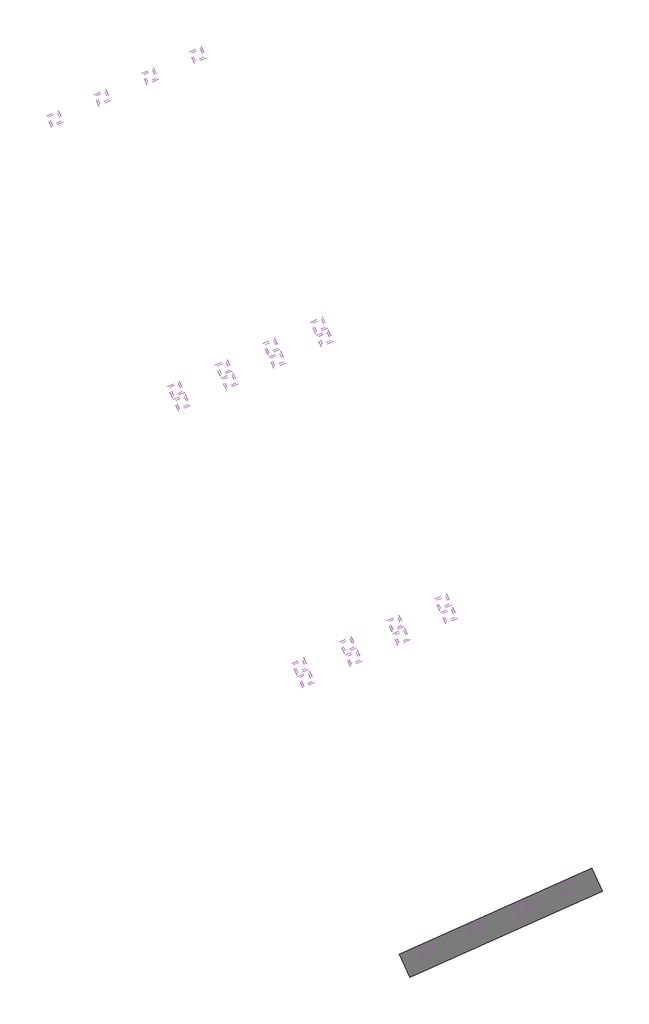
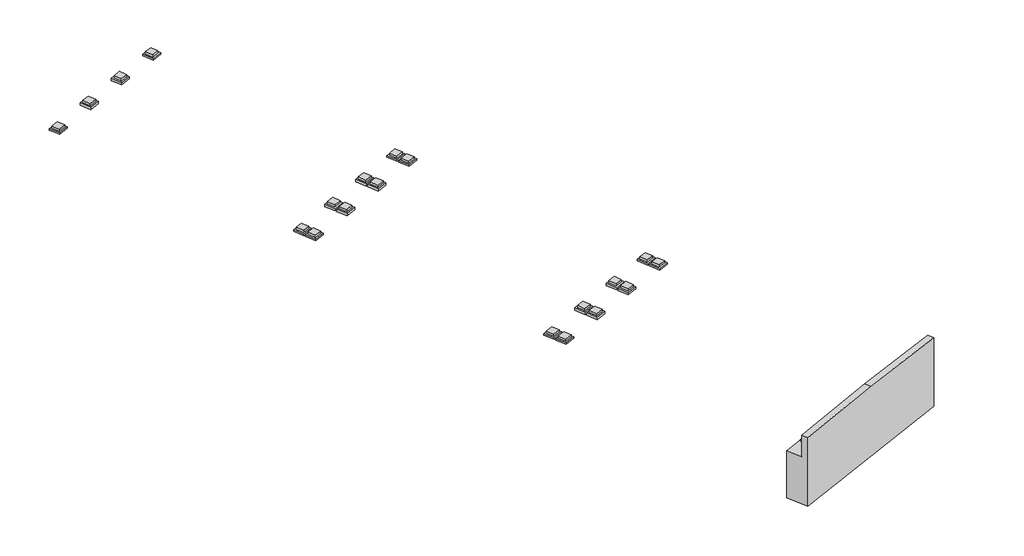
# One storey: 49 proxies.
"""IFC4 building model written with IfcOpenShell, lengths in millimetres."""

from ifc_helpers import new_model, si_unit, origin, place, context, project, spatial, transform, mapped, element, save
from components import generic_models_c604970b, m_bearing_pedestal_square_m_bearing_pedestal_square_b3e131c9, m_bearing_pedestal_square_m_bearing_pedestal_square_c1e3d4df, m_bearing_pedestal_square_m_bearing_pedestal_square_53fed63e, m_bearing_pedestal_square_m_bearing_pedestal_square_bb1ba2fc, m_bearing_pedestal_square_m_bearing_pedestal_square_95cf3319, m_bearing_rectangle_m_bearing_rectangle_8e37d638

model = new_model("IFC4")

# Units and contexts
model_context = context("Model", 3, world=origin())
ifc_project = project(units=[si_unit("LENGTHUNIT", "METRE", prefix="MILLI")], contexts=[model_context])

# Site, building, storey
site = spatial("IfcSite", under=ifc_project)
building = spatial("IfcBuilding", under=site)
storey = spatial("IfcBuildingStorey", under=building, Name="レベル 20", Elevation=-4770.8224551)

# Proxies
placement = place(None, origin())
generic_models_shape = generic_models_c604970b(model_context)
element("IfcBuildingElementProxy", 1, Name="M_Abutment_basic_no_slope_no_foundation : M_Abutment_basic_no_slope_no_foundation", ObjectType="M_Abutment_basic_no_slope_no_foundation : M_Abutment_basic_no_slope_no_foundation", at=placement, inside=storey, context=model_context, shape_type="MappedRepresentation", body=[
    mapped(generic_models_shape, transform((10313.007, -22993.0835, -1653.218796), x_axis=(-0.912423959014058, -0.40924628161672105, 0.0), y_axis=(0.40924628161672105, -0.912423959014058, 0.0), z_axis=(0.0, 0.0, 1.0))),
])
m_bearing_pedestal_square_m_bearing_pedestal_square_shape = m_bearing_pedestal_square_m_bearing_pedestal_square_b3e131c9(model_context)
element("IfcBuildingElementProxy", 2, Name="M_Bearing_pedestal_square : M_Bearing_pedestal_square", ObjectType="M_Bearing_pedestal_square : M_Bearing_pedestal_square", at=placement, inside=storey, context=model_context, shape_type="MappedRepresentation", body=[
    mapped(m_bearing_pedestal_square_m_bearing_pedestal_square_shape, transform((-6353.0868, 24769.2124, -1560.680896), x_axis=(0.9124239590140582, 0.4092462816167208, 0.0), y_axis=(-0.4092462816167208, 0.9124239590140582, 0.0), z_axis=(0.0, 0.0, 1.0))),
])
element("IfcBuildingElementProxy", 3, Name="M_Bearing_pedestal_square : M_Bearing_pedestal_square", ObjectType="M_Bearing_pedestal_square : M_Bearing_pedestal_square", at=placement, inside=storey, context=model_context, shape_type="MappedRepresentation", body=[
    mapped(m_bearing_pedestal_square_m_bearing_pedestal_square_shape, transform((-14272.9272, 21216.9546, -1560.680896), x_axis=(0.9124239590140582, 0.4092462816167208, 0.0), y_axis=(-0.4092462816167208, 0.9124239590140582, 0.0), z_axis=(0.0, 0.0, 1.0))),
])
element("IfcBuildingElementProxy", 4, Name="M_Bearing_pedestal_square : M_Bearing_pedestal_square", ObjectType="M_Bearing_pedestal_square : M_Bearing_pedestal_square", at=placement, inside=storey, context=model_context, shape_type="MappedRepresentation", body=[
    mapped(m_bearing_pedestal_square_m_bearing_pedestal_square_shape, transform((358.5527, 9805.4596, -1560.680896), x_axis=(0.9124239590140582, 0.4092462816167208, 0.0), y_axis=(-0.4092462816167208, 0.9124239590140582, 0.0), z_axis=(0.0, 0.0, 1.0))),
])
element("IfcBuildingElementProxy", 5, Name="M_Bearing_pedestal_square : M_Bearing_pedestal_square", ObjectType="M_Bearing_pedestal_square : M_Bearing_pedestal_square", at=placement, inside=storey, context=model_context, shape_type="MappedRepresentation", body=[
    mapped(m_bearing_pedestal_square_m_bearing_pedestal_square_shape, transform((-7561.2877, 6253.2018, -1560.680896), x_axis=(0.9124239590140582, 0.4092462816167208, 0.0), y_axis=(-0.4092462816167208, 0.9124239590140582, 0.0), z_axis=(0.0, 0.0, 1.0))),
])
element("IfcBuildingElementProxy", 6, Name="M_Bearing_pedestal_square : M_Bearing_pedestal_square", ObjectType="M_Bearing_pedestal_square : M_Bearing_pedestal_square", at=placement, inside=storey, context=model_context, shape_type="MappedRepresentation", body=[
    mapped(m_bearing_pedestal_square_m_bearing_pedestal_square_shape, transform((685.9497, 9075.5205, -1560.680896), x_axis=(0.9124239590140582, 0.4092462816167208, 0.0), y_axis=(-0.4092462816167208, 0.9124239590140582, 0.0), z_axis=(0.0, 0.0, 1.0))),
])
element("IfcBuildingElementProxy", 7, Name="M_Bearing_pedestal_square : M_Bearing_pedestal_square", ObjectType="M_Bearing_pedestal_square : M_Bearing_pedestal_square", at=placement, inside=storey, context=model_context, shape_type="MappedRepresentation", body=[
    mapped(m_bearing_pedestal_square_m_bearing_pedestal_square_shape, transform((-7233.8907, 5523.2627, -1560.680896), x_axis=(0.9124239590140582, 0.4092462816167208, 0.0), y_axis=(-0.4092462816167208, 0.9124239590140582, 0.0), z_axis=(0.0, 0.0, 1.0))),
])
element("IfcBuildingElementProxy", 8, Name="M_Bearing_pedestal_square : M_Bearing_pedestal_square", ObjectType="M_Bearing_pedestal_square : M_Bearing_pedestal_square", at=placement, inside=storey, context=model_context, shape_type="MappedRepresentation", body=[
    mapped(m_bearing_pedestal_square_m_bearing_pedestal_square_shape, transform((7561.2877, -6253.2018, -1564.622796), x_axis=(0.9124239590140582, 0.4092462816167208, 0.0), y_axis=(-0.4092462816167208, 0.9124239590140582, 0.0), z_axis=(0.0, 0.0, 1.0))),
])
element("IfcBuildingElementProxy", 9, Name="M_Bearing_pedestal_square : M_Bearing_pedestal_square", ObjectType="M_Bearing_pedestal_square : M_Bearing_pedestal_square", at=placement, inside=storey, context=model_context, shape_type="MappedRepresentation", body=[
    mapped(m_bearing_pedestal_square_m_bearing_pedestal_square_shape, transform((-358.5527, -9805.4596, -1564.622796), x_axis=(0.9124239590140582, 0.4092462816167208, 0.0), y_axis=(-0.4092462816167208, 0.9124239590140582, 0.0), z_axis=(0.0, 0.0, 1.0))),
])
element("IfcBuildingElementProxy", 10, Name="M_Bearing_pedestal_square : M_Bearing_pedestal_square", ObjectType="M_Bearing_pedestal_square : M_Bearing_pedestal_square", at=placement, inside=storey, context=model_context, shape_type="MappedRepresentation", body=[
    mapped(m_bearing_pedestal_square_m_bearing_pedestal_square_shape, transform((14272.9272, -21216.9546, -1553.218796), x_axis=(0.9124239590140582, 0.4092462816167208, 0.0), y_axis=(-0.4092462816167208, 0.9124239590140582, 0.0), z_axis=(0.0, 0.0, 1.0))),
])
element("IfcBuildingElementProxy", 11, Name="M_Bearing_pedestal_square : M_Bearing_pedestal_square", ObjectType="M_Bearing_pedestal_square : M_Bearing_pedestal_square", at=placement, inside=storey, context=model_context, shape_type="MappedRepresentation", body=[
    mapped(m_bearing_pedestal_square_m_bearing_pedestal_square_shape, transform((6353.0868, -24769.2124, -1553.218796), x_axis=(0.9124239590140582, 0.4092462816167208, 0.0), y_axis=(-0.4092462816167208, 0.9124239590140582, 0.0), z_axis=(0.0, 0.0, 1.0))),
])
m_bearing_pedestal_square_m_bearing_pedestal_square_2_shape = m_bearing_pedestal_square_m_bearing_pedestal_square_c1e3d4df(model_context)
element("IfcBuildingElementProxy", 12, Name="M_Bearing_pedestal_square : M_Bearing_pedestal_square", ObjectType="M_Bearing_pedestal_square : M_Bearing_pedestal_square", at=placement, inside=storey, context=model_context, shape_type="MappedRepresentation", body=[
    mapped(m_bearing_pedestal_square_m_bearing_pedestal_square_2_shape, transform((-8993.0337, 23585.1264, -1502.814168), x_axis=(0.9124239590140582, 0.4092462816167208, 0.0), y_axis=(-0.4092462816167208, 0.9124239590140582, 0.0), z_axis=(0.0, 0.0, 1.0))),
])
element("IfcBuildingElementProxy", 13, Name="M_Bearing_pedestal_square : M_Bearing_pedestal_square", ObjectType="M_Bearing_pedestal_square : M_Bearing_pedestal_square", at=placement, inside=storey, context=model_context, shape_type="MappedRepresentation", body=[
    mapped(m_bearing_pedestal_square_m_bearing_pedestal_square_2_shape, transform((-11632.9803, 22401.0406, -1502.814168), x_axis=(0.9124239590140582, 0.4092462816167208, 0.0), y_axis=(-0.4092462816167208, 0.9124239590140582, 0.0), z_axis=(0.0, 0.0, 1.0))),
])
element("IfcBuildingElementProxy", 14, Name="M_Bearing_pedestal_square : M_Bearing_pedestal_square", ObjectType="M_Bearing_pedestal_square : M_Bearing_pedestal_square", at=placement, inside=storey, context=model_context, shape_type="MappedRepresentation", body=[
    mapped(m_bearing_pedestal_square_m_bearing_pedestal_square_2_shape, transform((-2281.3942, 8621.3736, -1502.814168), x_axis=(0.9124239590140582, 0.4092462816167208, 0.0), y_axis=(-0.4092462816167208, 0.9124239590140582, 0.0), z_axis=(0.0, 0.0, 1.0))),
])
element("IfcBuildingElementProxy", 15, Name="M_Bearing_pedestal_square : M_Bearing_pedestal_square", ObjectType="M_Bearing_pedestal_square : M_Bearing_pedestal_square", at=placement, inside=storey, context=model_context, shape_type="MappedRepresentation", body=[
    mapped(m_bearing_pedestal_square_m_bearing_pedestal_square_2_shape, transform((-4921.3408, 7437.2878, -1502.814168), x_axis=(0.9124239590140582, 0.4092462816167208, 0.0), y_axis=(-0.4092462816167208, 0.9124239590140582, 0.0), z_axis=(0.0, 0.0, 1.0))),
])
element("IfcBuildingElementProxy", 16, Name="M_Bearing_pedestal_square : M_Bearing_pedestal_square", ObjectType="M_Bearing_pedestal_square : M_Bearing_pedestal_square", at=placement, inside=storey, context=model_context, shape_type="MappedRepresentation", body=[
    mapped(m_bearing_pedestal_square_m_bearing_pedestal_square_2_shape, transform((-1953.9972, 7891.4345, -1502.814168), x_axis=(0.9124239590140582, 0.4092462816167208, 0.0), y_axis=(-0.4092462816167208, 0.9124239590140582, 0.0), z_axis=(0.0, 0.0, 1.0))),
])
element("IfcBuildingElementProxy", 17, Name="M_Bearing_pedestal_square : M_Bearing_pedestal_square", ObjectType="M_Bearing_pedestal_square : M_Bearing_pedestal_square", at=placement, inside=storey, context=model_context, shape_type="MappedRepresentation", body=[
    mapped(m_bearing_pedestal_square_m_bearing_pedestal_square_2_shape, transform((-4593.9438, 6707.3487, -1502.814168), x_axis=(0.9124239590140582, 0.4092462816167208, 0.0), y_axis=(-0.4092462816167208, 0.9124239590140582, 0.0), z_axis=(0.0, 0.0, 1.0))),
])
element("IfcBuildingElementProxy", 18, Name="M_Bearing_pedestal_square : M_Bearing_pedestal_square", ObjectType="M_Bearing_pedestal_square : M_Bearing_pedestal_square", at=placement, inside=storey, context=model_context, shape_type="MappedRepresentation", body=[
    mapped(m_bearing_pedestal_square_m_bearing_pedestal_square_2_shape, transform((4921.3408, -7437.2878, -1506.756068), x_axis=(0.9124239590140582, 0.4092462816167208, 0.0), y_axis=(-0.4092462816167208, 0.9124239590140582, 0.0), z_axis=(0.0, 0.0, 1.0))),
])
element("IfcBuildingElementProxy", 19, Name="M_Bearing_pedestal_square : M_Bearing_pedestal_square", ObjectType="M_Bearing_pedestal_square : M_Bearing_pedestal_square", at=placement, inside=storey, context=model_context, shape_type="MappedRepresentation", body=[
    mapped(m_bearing_pedestal_square_m_bearing_pedestal_square_2_shape, transform((11632.9803, -22401.0406, -1495.352068), x_axis=(0.9124239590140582, 0.4092462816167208, 0.0), y_axis=(-0.4092462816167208, 0.9124239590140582, 0.0), z_axis=(0.0, 0.0, 1.0))),
])
m_bearing_pedestal_square_m_bearing_pedestal_square_3_shape = m_bearing_pedestal_square_m_bearing_pedestal_square_53fed63e(model_context)
element("IfcBuildingElementProxy", 20, Name="M_Bearing_pedestal_square : M_Bearing_pedestal_square", ObjectType="M_Bearing_pedestal_square : M_Bearing_pedestal_square", at=placement, inside=storey, context=model_context, shape_type="MappedRepresentation", body=[
    mapped(m_bearing_pedestal_square_m_bearing_pedestal_square_3_shape, transform((7233.8907, -5523.2627, -1560.680896), x_axis=(0.9124239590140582, 0.4092462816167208, 0.0), y_axis=(-0.4092462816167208, 0.9124239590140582, 0.0), z_axis=(0.0, 0.0, 1.0))),
])
element("IfcBuildingElementProxy", 21, Name="M_Bearing_pedestal_square : M_Bearing_pedestal_square", ObjectType="M_Bearing_pedestal_square : M_Bearing_pedestal_square", at=placement, inside=storey, context=model_context, shape_type="MappedRepresentation", body=[
    mapped(m_bearing_pedestal_square_m_bearing_pedestal_square_3_shape, transform((-685.9497, -9075.5205, -1560.680896), x_axis=(0.9124239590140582, 0.4092462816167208, 0.0), y_axis=(-0.4092462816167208, 0.9124239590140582, 0.0), z_axis=(0.0, 0.0, 1.0))),
])
m_bearing_pedestal_square_m_bearing_pedestal_square_4_shape = m_bearing_pedestal_square_m_bearing_pedestal_square_bb1ba2fc(model_context)
element("IfcBuildingElementProxy", 22, Name="M_Bearing_pedestal_square : M_Bearing_pedestal_square", ObjectType="M_Bearing_pedestal_square : M_Bearing_pedestal_square", at=placement, inside=storey, context=model_context, shape_type="MappedRepresentation", body=[
    mapped(m_bearing_pedestal_square_m_bearing_pedestal_square_4_shape, transform((4593.9438, -6707.3487, -1502.814168), x_axis=(0.9124239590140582, 0.4092462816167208, 0.0), y_axis=(-0.4092462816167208, 0.9124239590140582, 0.0), z_axis=(0.0, 0.0, 1.0))),
])
element("IfcBuildingElementProxy", 23, Name="M_Bearing_pedestal_square : M_Bearing_pedestal_square", ObjectType="M_Bearing_pedestal_square : M_Bearing_pedestal_square", at=placement, inside=storey, context=model_context, shape_type="MappedRepresentation", body=[
    mapped(m_bearing_pedestal_square_m_bearing_pedestal_square_4_shape, transform((1953.9972, -7891.4345, -1502.814168), x_axis=(0.9124239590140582, 0.4092462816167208, 0.0), y_axis=(-0.4092462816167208, 0.9124239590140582, 0.0), z_axis=(0.0, 0.0, 1.0))),
])
m_bearing_pedestal_square_m_bearing_pedestal_square_5_shape = m_bearing_pedestal_square_m_bearing_pedestal_square_95cf3319(model_context)
element("IfcBuildingElementProxy", 24, Name="M_Bearing_pedestal_square : M_Bearing_pedestal_square", ObjectType="M_Bearing_pedestal_square : M_Bearing_pedestal_square", at=placement, inside=storey, context=model_context, shape_type="MappedRepresentation", body=[
    mapped(m_bearing_pedestal_square_m_bearing_pedestal_square_5_shape, transform((2281.3942, -8621.3736, -1506.755968), x_axis=(0.9124239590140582, 0.4092462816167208, 0.0), y_axis=(-0.4092462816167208, 0.9124239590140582, 0.0), z_axis=(0.0, 0.0, 1.0))),
])
element("IfcBuildingElementProxy", 25, Name="M_Bearing_pedestal_square : M_Bearing_pedestal_square", ObjectType="M_Bearing_pedestal_square : M_Bearing_pedestal_square", at=placement, inside=storey, context=model_context, shape_type="MappedRepresentation", body=[
    mapped(m_bearing_pedestal_square_m_bearing_pedestal_square_5_shape, transform((8993.0337, -23585.1264, -1495.351968), x_axis=(0.9124239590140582, 0.4092462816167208, 0.0), y_axis=(-0.4092462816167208, 0.9124239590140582, 0.0), z_axis=(0.0, 0.0, 1.0))),
])
m_bearing_rectangle_m_bearing_rectangle_shape = m_bearing_rectangle_m_bearing_rectangle_8e37d638(model_context)
element("IfcBuildingElementProxy", 26, Name="M_Bearing_rectangle : M_Bearing_rectangle", ObjectType="M_Bearing_rectangle : M_Bearing_rectangle", at=placement, inside=storey, context=model_context, shape_type="MappedRepresentation", body=[
    mapped(m_bearing_rectangle_m_bearing_rectangle_shape, transform((-6353.0868, 24769.2124, -1410.680896), x_axis=(0.9124239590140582, 0.4092462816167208, 0.0), y_axis=(-0.4092462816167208, 0.9124239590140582, 0.0), z_axis=(0.0, 0.0, 1.0))),
])
element("IfcBuildingElementProxy", 27, Name="M_Bearing_rectangle : M_Bearing_rectangle", ObjectType="M_Bearing_rectangle : M_Bearing_rectangle", at=placement, inside=storey, context=model_context, shape_type="MappedRepresentation", body=[
    mapped(m_bearing_rectangle_m_bearing_rectangle_shape, transform((-8993.0337, 23585.1264, -1352.814168), x_axis=(0.9124239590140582, 0.4092462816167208, 0.0), y_axis=(-0.4092462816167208, 0.9124239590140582, 0.0), z_axis=(0.0, 0.0, 1.0))),
])
element("IfcBuildingElementProxy", 28, Name="M_Bearing_rectangle : M_Bearing_rectangle", ObjectType="M_Bearing_rectangle : M_Bearing_rectangle", at=placement, inside=storey, context=model_context, shape_type="MappedRepresentation", body=[
    mapped(m_bearing_rectangle_m_bearing_rectangle_shape, transform((-11632.9803, 22401.0406, -1352.814168), x_axis=(0.9124239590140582, 0.4092462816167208, 0.0), y_axis=(-0.4092462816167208, 0.9124239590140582, 0.0), z_axis=(0.0, 0.0, 1.0))),
])
element("IfcBuildingElementProxy", 29, Name="M_Bearing_rectangle : M_Bearing_rectangle", ObjectType="M_Bearing_rectangle : M_Bearing_rectangle", at=placement, inside=storey, context=model_context, shape_type="MappedRepresentation", body=[
    mapped(m_bearing_rectangle_m_bearing_rectangle_shape, transform((-14272.9272, 21216.9546, -1410.680896), x_axis=(0.9124239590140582, 0.4092462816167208, 0.0), y_axis=(-0.4092462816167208, 0.9124239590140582, 0.0), z_axis=(0.0, 0.0, 1.0))),
])
element("IfcBuildingElementProxy", 30, Name="M_Bearing_rectangle : M_Bearing_rectangle", ObjectType="M_Bearing_rectangle : M_Bearing_rectangle", at=placement, inside=storey, context=model_context, shape_type="MappedRepresentation", body=[
    mapped(m_bearing_rectangle_m_bearing_rectangle_shape, transform((358.5527, 9805.4596, -1410.680896), x_axis=(0.9124239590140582, 0.4092462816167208, 0.0), y_axis=(-0.4092462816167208, 0.9124239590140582, 0.0), z_axis=(0.0, 0.0, 1.0))),
])
element("IfcBuildingElementProxy", 31, Name="M_Bearing_rectangle : M_Bearing_rectangle", ObjectType="M_Bearing_rectangle : M_Bearing_rectangle", at=placement, inside=storey, context=model_context, shape_type="MappedRepresentation", body=[
    mapped(m_bearing_rectangle_m_bearing_rectangle_shape, transform((-2281.3942, 8621.3736, -1352.814168), x_axis=(0.9124239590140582, 0.4092462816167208, 0.0), y_axis=(-0.4092462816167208, 0.9124239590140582, 0.0), z_axis=(0.0, 0.0, 1.0))),
])
element("IfcBuildingElementProxy", 32, Name="M_Bearing_rectangle : M_Bearing_rectangle", ObjectType="M_Bearing_rectangle : M_Bearing_rectangle", at=placement, inside=storey, context=model_context, shape_type="MappedRepresentation", body=[
    mapped(m_bearing_rectangle_m_bearing_rectangle_shape, transform((-4921.3408, 7437.2878, -1352.814168), x_axis=(0.9124239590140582, 0.4092462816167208, 0.0), y_axis=(-0.4092462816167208, 0.9124239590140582, 0.0), z_axis=(0.0, 0.0, 1.0))),
])
element("IfcBuildingElementProxy", 33, Name="M_Bearing_rectangle : M_Bearing_rectangle", ObjectType="M_Bearing_rectangle : M_Bearing_rectangle", at=placement, inside=storey, context=model_context, shape_type="MappedRepresentation", body=[
    mapped(m_bearing_rectangle_m_bearing_rectangle_shape, transform((-7561.2877, 6253.2018, -1410.680896), x_axis=(0.9124239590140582, 0.4092462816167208, 0.0), y_axis=(-0.4092462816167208, 0.9124239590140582, 0.0), z_axis=(0.0, 0.0, 1.0))),
])
element("IfcBuildingElementProxy", 34, Name="M_Bearing_rectangle : M_Bearing_rectangle", ObjectType="M_Bearing_rectangle : M_Bearing_rectangle", at=placement, inside=storey, context=model_context, shape_type="MappedRepresentation", body=[
    mapped(m_bearing_rectangle_m_bearing_rectangle_shape, transform((685.9497, 9075.5205, -1410.680896), x_axis=(0.9124239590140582, 0.4092462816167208, 0.0), y_axis=(-0.4092462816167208, 0.9124239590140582, 0.0), z_axis=(0.0, 0.0, 1.0))),
])
element("IfcBuildingElementProxy", 35, Name="M_Bearing_rectangle : M_Bearing_rectangle", ObjectType="M_Bearing_rectangle : M_Bearing_rectangle", at=placement, inside=storey, context=model_context, shape_type="MappedRepresentation", body=[
    mapped(m_bearing_rectangle_m_bearing_rectangle_shape, transform((-1953.9972, 7891.4345, -1352.814168), x_axis=(0.9124239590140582, 0.4092462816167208, 0.0), y_axis=(-0.4092462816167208, 0.9124239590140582, 0.0), z_axis=(0.0, 0.0, 1.0))),
])
element("IfcBuildingElementProxy", 36, Name="M_Bearing_rectangle : M_Bearing_rectangle", ObjectType="M_Bearing_rectangle : M_Bearing_rectangle", at=placement, inside=storey, context=model_context, shape_type="MappedRepresentation", body=[
    mapped(m_bearing_rectangle_m_bearing_rectangle_shape, transform((-4593.9438, 6707.3487, -1352.814168), x_axis=(0.9124239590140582, 0.4092462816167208, 0.0), y_axis=(-0.4092462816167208, 0.9124239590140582, 0.0), z_axis=(0.0, 0.0, 1.0))),
])
element("IfcBuildingElementProxy", 37, Name="M_Bearing_rectangle : M_Bearing_rectangle", ObjectType="M_Bearing_rectangle : M_Bearing_rectangle", at=placement, inside=storey, context=model_context, shape_type="MappedRepresentation", body=[
    mapped(m_bearing_rectangle_m_bearing_rectangle_shape, transform((-7233.8907, 5523.2627, -1410.680896), x_axis=(0.9124239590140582, 0.4092462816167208, 0.0), y_axis=(-0.4092462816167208, 0.9124239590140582, 0.0), z_axis=(0.0, 0.0, 1.0))),
])
element("IfcBuildingElementProxy", 38, Name="M_Bearing_rectangle : M_Bearing_rectangle", ObjectType="M_Bearing_rectangle : M_Bearing_rectangle", at=placement, inside=storey, context=model_context, shape_type="MappedRepresentation", body=[
    mapped(m_bearing_rectangle_m_bearing_rectangle_shape, transform((7233.8907, -5523.2627, -1410.680896), x_axis=(0.9124239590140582, 0.4092462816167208, 0.0), y_axis=(-0.4092462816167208, 0.9124239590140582, 0.0), z_axis=(0.0, 0.0, 1.0))),
])
element("IfcBuildingElementProxy", 39, Name="M_Bearing_rectangle : M_Bearing_rectangle", ObjectType="M_Bearing_rectangle : M_Bearing_rectangle", at=placement, inside=storey, context=model_context, shape_type="MappedRepresentation", body=[
    mapped(m_bearing_rectangle_m_bearing_rectangle_shape, transform((4593.9438, -6707.3487, -1352.814168), x_axis=(0.9124239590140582, 0.4092462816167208, 0.0), y_axis=(-0.4092462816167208, 0.9124239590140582, 0.0), z_axis=(0.0, 0.0, 1.0))),
])
element("IfcBuildingElementProxy", 40, Name="M_Bearing_rectangle : M_Bearing_rectangle", ObjectType="M_Bearing_rectangle : M_Bearing_rectangle", at=placement, inside=storey, context=model_context, shape_type="MappedRepresentation", body=[
    mapped(m_bearing_rectangle_m_bearing_rectangle_shape, transform((1953.9972, -7891.4345, -1352.814168), x_axis=(0.9124239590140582, 0.4092462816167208, 0.0), y_axis=(-0.4092462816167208, 0.9124239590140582, 0.0), z_axis=(0.0, 0.0, 1.0))),
])
element("IfcBuildingElementProxy", 41, Name="M_Bearing_rectangle : M_Bearing_rectangle", ObjectType="M_Bearing_rectangle : M_Bearing_rectangle", at=placement, inside=storey, context=model_context, shape_type="MappedRepresentation", body=[
    mapped(m_bearing_rectangle_m_bearing_rectangle_shape, transform((-685.9497, -9075.5205, -1410.680896), x_axis=(0.9124239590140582, 0.4092462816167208, 0.0), y_axis=(-0.4092462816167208, 0.9124239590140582, 0.0), z_axis=(0.0, 0.0, 1.0))),
])
element("IfcBuildingElementProxy", 42, Name="M_Bearing_rectangle : M_Bearing_rectangle", ObjectType="M_Bearing_rectangle : M_Bearing_rectangle", at=placement, inside=storey, context=model_context, shape_type="MappedRepresentation", body=[
    mapped(m_bearing_rectangle_m_bearing_rectangle_shape, transform((7561.2877, -6253.2018, -1414.622796), x_axis=(0.9124239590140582, 0.4092462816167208, 0.0), y_axis=(-0.4092462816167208, 0.9124239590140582, 0.0), z_axis=(0.0, 0.0, 1.0))),
])
element("IfcBuildingElementProxy", 43, Name="M_Bearing_rectangle : M_Bearing_rectangle", ObjectType="M_Bearing_rectangle : M_Bearing_rectangle", at=placement, inside=storey, context=model_context, shape_type="MappedRepresentation", body=[
    mapped(m_bearing_rectangle_m_bearing_rectangle_shape, transform((4921.3408, -7437.2878, -1356.756068), x_axis=(0.9124239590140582, 0.4092462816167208, 0.0), y_axis=(-0.4092462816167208, 0.9124239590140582, 0.0), z_axis=(0.0, 0.0, 1.0))),
])
element("IfcBuildingElementProxy", 44, Name="M_Bearing_rectangle : M_Bearing_rectangle", ObjectType="M_Bearing_rectangle : M_Bearing_rectangle", at=placement, inside=storey, context=model_context, shape_type="MappedRepresentation", body=[
    mapped(m_bearing_rectangle_m_bearing_rectangle_shape, transform((2281.3942, -8621.3736, -1356.755968), x_axis=(0.9124239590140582, 0.4092462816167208, 0.0), y_axis=(-0.4092462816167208, 0.9124239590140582, 0.0), z_axis=(0.0, 0.0, 1.0))),
])
element("IfcBuildingElementProxy", 45, Name="M_Bearing_rectangle : M_Bearing_rectangle", ObjectType="M_Bearing_rectangle : M_Bearing_rectangle", at=placement, inside=storey, context=model_context, shape_type="MappedRepresentation", body=[
    mapped(m_bearing_rectangle_m_bearing_rectangle_shape, transform((-358.5527, -9805.4596, -1414.622796), x_axis=(0.9124239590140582, 0.4092462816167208, 0.0), y_axis=(-0.4092462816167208, 0.9124239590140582, 0.0), z_axis=(0.0, 0.0, 1.0))),
])
element("IfcBuildingElementProxy", 46, Name="M_Bearing_rectangle : M_Bearing_rectangle", ObjectType="M_Bearing_rectangle : M_Bearing_rectangle", at=placement, inside=storey, context=model_context, shape_type="MappedRepresentation", body=[
    mapped(m_bearing_rectangle_m_bearing_rectangle_shape, transform((14272.9272, -21216.9546, -1403.218796), x_axis=(0.9124239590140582, 0.4092462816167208, 0.0), y_axis=(-0.4092462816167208, 0.9124239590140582, 0.0), z_axis=(0.0, 0.0, 1.0))),
])
element("IfcBuildingElementProxy", 47, Name="M_Bearing_rectangle : M_Bearing_rectangle", ObjectType="M_Bearing_rectangle : M_Bearing_rectangle", at=placement, inside=storey, context=model_context, shape_type="MappedRepresentation", body=[
    mapped(m_bearing_rectangle_m_bearing_rectangle_shape, transform((11632.9803, -22401.0406, -1345.352068), x_axis=(0.9124239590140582, 0.4092462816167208, 0.0), y_axis=(-0.4092462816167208, 0.9124239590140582, 0.0), z_axis=(0.0, 0.0, 1.0))),
])
element("IfcBuildingElementProxy", 48, Name="M_Bearing_rectangle : M_Bearing_rectangle", ObjectType="M_Bearing_rectangle : M_Bearing_rectangle", at=placement, inside=storey, context=model_context, shape_type="MappedRepresentation", body=[
    mapped(m_bearing_rectangle_m_bearing_rectangle_shape, transform((8993.0337, -23585.1264, -1345.351968), x_axis=(0.9124239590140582, 0.4092462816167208, 0.0), y_axis=(-0.4092462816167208, 0.9124239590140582, 0.0), z_axis=(0.0, 0.0, 1.0))),
])
element("IfcBuildingElementProxy", 49, Name="M_Bearing_rectangle : M_Bearing_rectangle", ObjectType="M_Bearing_rectangle : M_Bearing_rectangle", at=placement, inside=storey, context=model_context, shape_type="MappedRepresentation", body=[
    mapped(m_bearing_rectangle_m_bearing_rectangle_shape, transform((6353.0868, -24769.2124, -1403.218796), x_axis=(0.9124239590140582, 0.4092462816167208, 0.0), y_axis=(-0.4092462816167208, 0.9124239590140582, 0.0), z_axis=(0.0, 0.0, 1.0))),
])

save(model, "model.ifc")
